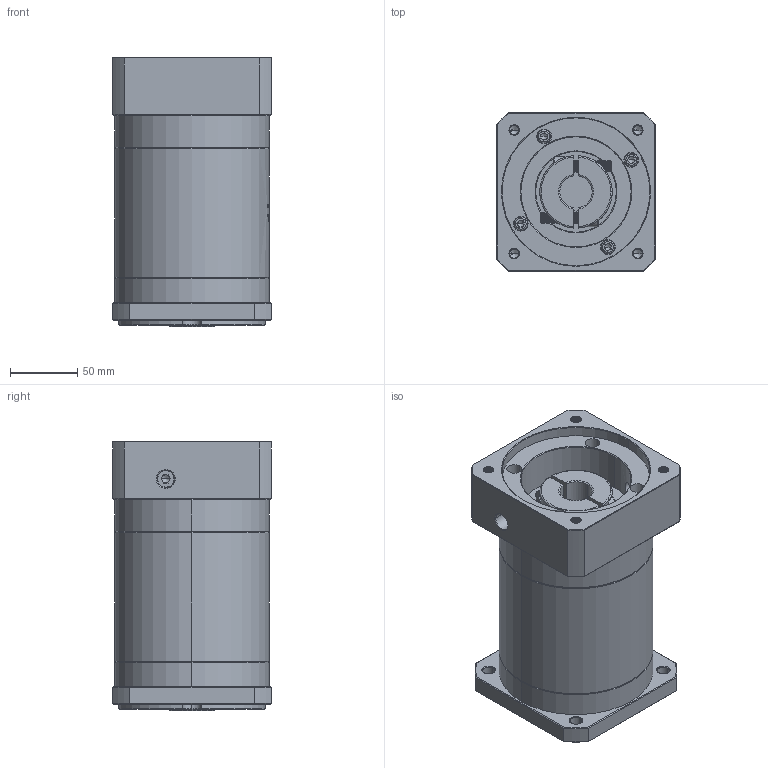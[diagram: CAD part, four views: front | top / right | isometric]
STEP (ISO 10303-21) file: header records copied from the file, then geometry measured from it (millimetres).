
FILE_DESCRIPTION (( 'STEP AP214' ), '1' );
FILE_NAME ('ZF120A-K25-L3-24-110-130-M8.step', '2023-03-07T09:39:41', ( '' ), ( '' ), 'SwSTEP 2.0', 'SolidWorks 2016', '' );
FILE_SCHEMA (( 'AUTOMOTIVE_DESIGN' ));
Length unit declared in the file: millimetre
Products named in the file (1): ZF120A-K25-L3-24-110-130-M8
Bounding box: 118 x 118 x 200.5 mm (x, y, z)
Volume: 1989893.4 mm3; surface area: 184000.1 mm2
Topology: 6 solids, 6 shells, 1888 faces, 4938 edges, 3148 vertices
Faces by surface type: plane 850, cylinder 389, cone 317, bspline 312, torus 20
Entity records: 101355 total; most frequent: CARTESIAN_POINT 37706, ORIENTED_EDGE 9820, DIRECTION 7652, EDGE_CURVE 4910, VERTEX_POINT 3148, VECTOR 2690, LINE 2690, AXIS2_PLACEMENT_3D 2481
